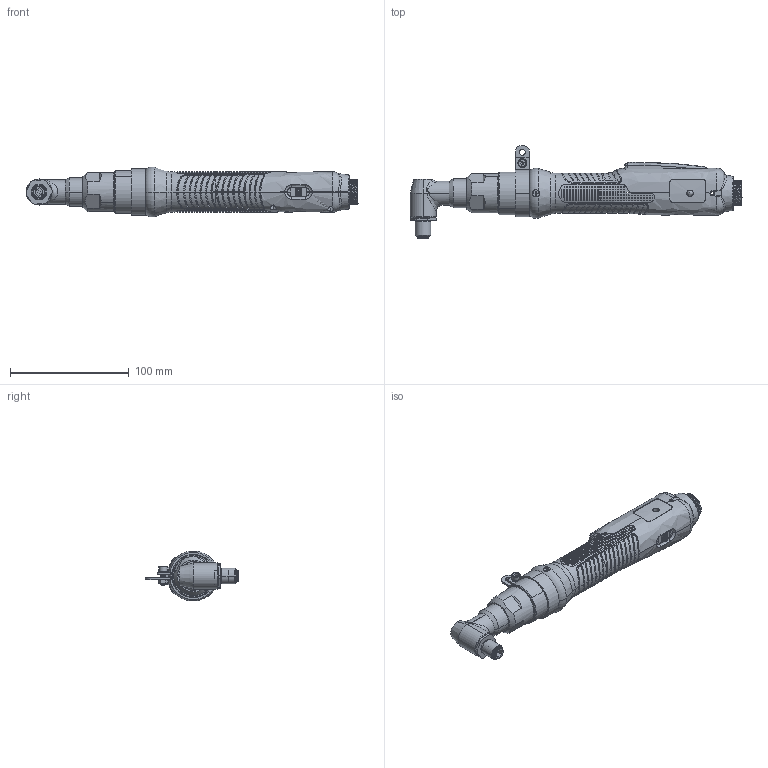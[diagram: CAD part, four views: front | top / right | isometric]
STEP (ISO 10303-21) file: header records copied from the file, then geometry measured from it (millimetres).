
FILE_DESCRIPTION (( 'STEP AP203' ), '1' );
FILE_NAME ('MDH2604,2611,2616_諼睡辨.STEP', '2020-10-08T08:15:13', ( 'user' ), ( '' ), 'SwSTEP 2.0', 'SolidWorks 2020', '' );
FILE_SCHEMA (( 'CONFIG_CONTROL_DESIGN' ));
Length unit declared in the file: millimetre
Products named in the file (1): MDH2604,2611,2616_諼睡辨
Bounding box: 280.18 x 78.8 x 41.97 mm (x, y, z)
Surface area: 48096.6 mm2 (no closed solid volume)
Topology: 0 solids, 44 shells, 2110 faces, 6277 edges, 4344 vertices
Faces by surface type: plane 1242, cylinder 531, bspline 251, cone 52, torus 23, sphere 11
Entity records: 101047 total; most frequent: CARTESIAN_POINT 50889, ORIENTED_EDGE 11208, DIRECTION 7940, EDGE_CURVE 6272, VERTEX_POINT 4342, B_SPLINE_CURVE_WITH_KNOTS 2924, AXIS2_PLACEMENT_3D 2826, EDGE_LOOP 2394
